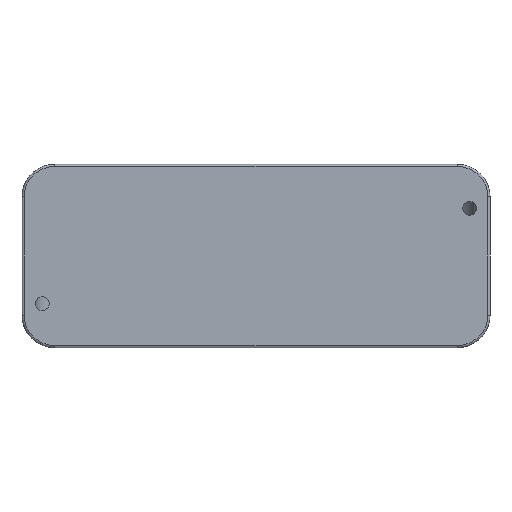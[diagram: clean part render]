
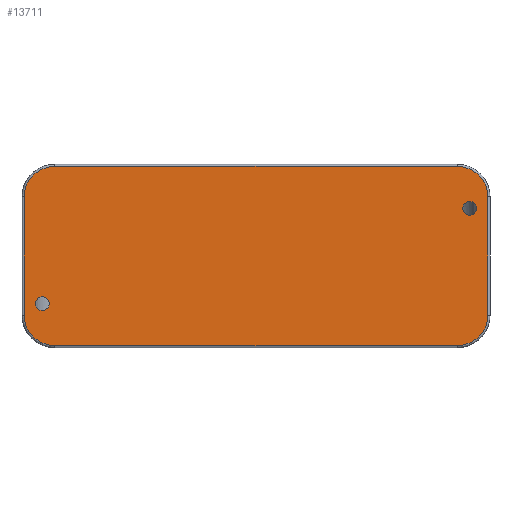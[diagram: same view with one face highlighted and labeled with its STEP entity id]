
A CAD part, front view. The second image highlights one B-rep face of the part: STEP entity #13711.
In plain terms, the highlighted planar face has unit normal (0, -1, 0).
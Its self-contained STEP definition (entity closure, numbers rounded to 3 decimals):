
#10578=CARTESIAN_POINT('',(-52.5,0.,-11.7));
#10579=DIRECTION('',(0.,1.,0.));
#10580=DIRECTION('',(1.,0.,0.));
#10581=AXIS2_PLACEMENT_3D('',#10578,#10579,#10580);
#10583=CARTESIAN_POINT('',(-52.5,0.,-11.7));
#10584=DIRECTION('',(0.,1.,0.));
#10585=DIRECTION('',(-1.,0.,0.));
#10586=AXIS2_PLACEMENT_3D('',#10583,#10584,#10585);
#10588=CARTESIAN_POINT('',(52.5,0.,11.7));
#10589=DIRECTION('',(0.,1.,0.));
#10590=DIRECTION('',(1.,0.,0.));
#10591=AXIS2_PLACEMENT_3D('',#10588,#10589,#10590);
#10593=CARTESIAN_POINT('',(52.5,0.,11.7));
#10594=DIRECTION('',(0.,1.,0.));
#10595=DIRECTION('',(-1.,0.,0.));
#10596=AXIS2_PLACEMENT_3D('',#10593,#10594,#10595);
#10598=CARTESIAN_POINT('',(-49.5,0.,14.5));
#10599=DIRECTION('',(0.,-1.,0.));
#10600=DIRECTION('',(0.,0.,1.));
#10601=AXIS2_PLACEMENT_3D('',#10598,#10599,#10600);
#10603=DIRECTION('',(-1.,0.,0.));
#10604=VECTOR('',#10603,99.);
#10605=CARTESIAN_POINT('',(49.5,0.,22.));
#10606=LINE('',#10605,#10604);
#10607=CARTESIAN_POINT('',(49.5,0.,14.5));
#10608=DIRECTION('',(0.,-1.,0.));
#10609=DIRECTION('',(1.,0.,0.));
#10610=AXIS2_PLACEMENT_3D('',#10607,#10608,#10609);
#10612=DIRECTION('',(0.,0.,1.));
#10613=VECTOR('',#10612,29.);
#10614=CARTESIAN_POINT('',(57.,0.,-14.5));
#10615=LINE('',#10614,#10613);
#10616=CARTESIAN_POINT('',(49.5,0.,-14.5));
#10617=DIRECTION('',(0.,-1.,0.));
#10618=DIRECTION('',(0.,0.,-1.));
#10619=AXIS2_PLACEMENT_3D('',#10616,#10617,#10618);
#10621=DIRECTION('',(1.,0.,0.));
#10622=VECTOR('',#10621,99.);
#10623=CARTESIAN_POINT('',(-49.5,0.,-22.));
#10624=LINE('',#10623,#10622);
#10625=CARTESIAN_POINT('',(-49.5,0.,-14.5));
#10626=DIRECTION('',(0.,-1.,0.));
#10627=DIRECTION('',(-1.,0.,0.));
#10628=AXIS2_PLACEMENT_3D('',#10625,#10626,#10627);
#10630=DIRECTION('',(0.,0.,-1.));
#10631=VECTOR('',#10630,29.);
#10632=CARTESIAN_POINT('',(-57.,0.,14.5));
#10633=LINE('',#10632,#10631);
#13068=CARTESIAN_POINT('',(-50.8,0.,-11.7));
#13069=CARTESIAN_POINT('',(-54.2,0.,-11.7));
#13070=VERTEX_POINT('',#13068);
#13071=VERTEX_POINT('',#13069);
#13136=CARTESIAN_POINT('',(54.2,0.,11.7));
#13137=CARTESIAN_POINT('',(50.8,0.,11.7));
#13138=VERTEX_POINT('',#13136);
#13139=VERTEX_POINT('',#13137);
#13232=CARTESIAN_POINT('',(-49.5,0.,22.));
#13233=CARTESIAN_POINT('',(-57.,0.,14.5));
#13234=VERTEX_POINT('',#13232);
#13235=VERTEX_POINT('',#13233);
#13240=CARTESIAN_POINT('',(-57.,0.,-14.5));
#13241=VERTEX_POINT('',#13240);
#13244=CARTESIAN_POINT('',(-49.5,0.,-22.));
#13245=VERTEX_POINT('',#13244);
#13248=CARTESIAN_POINT('',(49.5,0.,-22.));
#13249=VERTEX_POINT('',#13248);
#13252=CARTESIAN_POINT('',(57.,0.,-14.5));
#13253=VERTEX_POINT('',#13252);
#13256=CARTESIAN_POINT('',(57.,0.,14.5));
#13257=VERTEX_POINT('',#13256);
#13260=CARTESIAN_POINT('',(49.5,0.,22.));
#13261=VERTEX_POINT('',#13260);
#13676=CARTESIAN_POINT('',(0.,0.,0.));
#13677=DIRECTION('',(0.,1.,0.));
#13678=DIRECTION('',(1.,0.,0.));
#13679=AXIS2_PLACEMENT_3D('',#13676,#13677,#13678);
#13680=PLANE('',#13679);
#13682=ORIENTED_EDGE('',*,*,#13681,.F.);
#13684=ORIENTED_EDGE('',*,*,#13683,.F.);
#13686=ORIENTED_EDGE('',*,*,#13685,.F.);
#13688=ORIENTED_EDGE('',*,*,#13687,.F.);
#13690=ORIENTED_EDGE('',*,*,#13689,.F.);
#13692=ORIENTED_EDGE('',*,*,#13691,.F.);
#13694=ORIENTED_EDGE('',*,*,#13693,.F.);
#13696=ORIENTED_EDGE('',*,*,#13695,.F.);
#13697=EDGE_LOOP('',(#13682,#13684,#13686,#13688,#13690,#13692,#13694,#13696));
#13698=FACE_OUTER_BOUND('',#13697,.F.);
#13700=ORIENTED_EDGE('',*,*,#13699,.F.);
#13702=ORIENTED_EDGE('',*,*,#13701,.F.);
#13703=EDGE_LOOP('',(#13700,#13702));
#13704=FACE_BOUND('',#13703,.F.);
#13706=ORIENTED_EDGE('',*,*,#13705,.F.);
#13708=ORIENTED_EDGE('',*,*,#13707,.F.);
#13709=EDGE_LOOP('',(#13706,#13708));
#13710=FACE_BOUND('',#13709,.F.);
#10582=CIRCLE('',#10581,1.7);
#10587=CIRCLE('',#10586,1.7);
#10592=CIRCLE('',#10591,1.7);
#10597=CIRCLE('',#10596,1.7);
#10602=CIRCLE('',#10601,7.5);
#10611=CIRCLE('',#10610,7.5);
#10620=CIRCLE('',#10619,7.5);
#10629=CIRCLE('',#10628,7.5);
#13681=EDGE_CURVE('',#13234,#13235,#10602,.T.);
#13683=EDGE_CURVE('',#13261,#13234,#10606,.T.);
#13685=EDGE_CURVE('',#13257,#13261,#10611,.T.);
#13687=EDGE_CURVE('',#13253,#13257,#10615,.T.);
#13689=EDGE_CURVE('',#13249,#13253,#10620,.T.);
#13691=EDGE_CURVE('',#13245,#13249,#10624,.T.);
#13693=EDGE_CURVE('',#13241,#13245,#10629,.T.);
#13695=EDGE_CURVE('',#13235,#13241,#10633,.T.);
#13699=EDGE_CURVE('',#13138,#13139,#10592,.T.);
#13701=EDGE_CURVE('',#13139,#13138,#10597,.T.);
#13705=EDGE_CURVE('',#13070,#13071,#10582,.T.);
#13707=EDGE_CURVE('',#13071,#13070,#10587,.T.);
#13711=ADVANCED_FACE('',(#13698,#13704,#13710),#13680,.F.);
